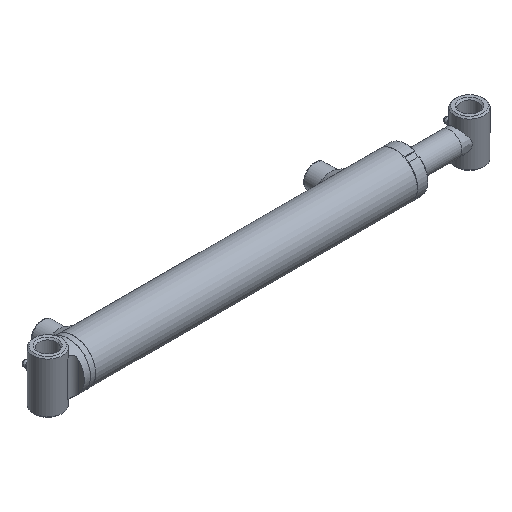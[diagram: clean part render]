
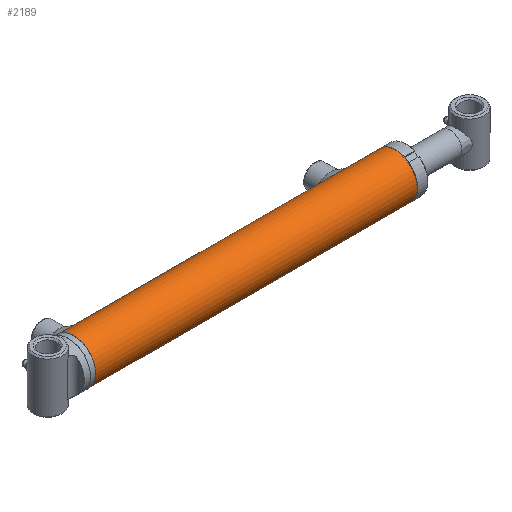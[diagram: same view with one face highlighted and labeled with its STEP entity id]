
A CAD part, isometric view. The second image highlights one B-rep face of the part: STEP entity #2189.
In plain terms, the highlighted cylindrical face has radius 23.812 mm (diameter 47.625 mm), a full revolution.
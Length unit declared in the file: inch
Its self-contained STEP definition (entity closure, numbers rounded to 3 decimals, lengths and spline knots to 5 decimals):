
#387=FACE_BOUND('',#697,.T.);
#388=FACE_BOUND('',#698,.T.);
#389=FACE_BOUND('',#699,.T.);
#509=FACE_OUTER_BOUND('',#696,.T.);
#696=EDGE_LOOP('',(#1677));
#697=EDGE_LOOP('',(#1678));
#698=EDGE_LOOP('',(#1679));
#699=EDGE_LOOP('',(#1680));
#933=CIRCLE('',#2369,0.9375);
#937=CIRCLE('',#2377,0.9375);
#1070=B_SPLINE_CURVE_WITH_KNOTS('',3,(#4752,#4753,#4754,#4755,#4756,#4757,
#4758,#4759,#4760,#4761,#4762,#4763,#4764,#4765,#4766,#4767,#4768,#4769,
#4770,#4771,#4772,#4773,#4774,#4775,#4776,#4777,#4778,#4779,#4780,#4781,
#4782,#4783,#4784,#4785),.UNSPECIFIED.,.T.,.F.,(4,2,2,2,2,2,2,2,2,2,2,2,
2,2,2,2,4),(0.,0.18896,0.37791,0.56686,0.7558,
0.94474,1.13369,1.32264,1.5116,1.70055,
1.88951,2.07845,2.2674,2.45634,2.64528,
2.83424,3.0232),.UNSPECIFIED.);
#1072=B_SPLINE_CURVE_WITH_KNOTS('',3,(#4950,#4951,#4952,#4953,#4954,#4955,
#4956,#4957,#4958,#4959,#4960,#4961,#4962,#4963,#4964,#4965,#4966,#4967,
#4968,#4969,#4970,#4971,#4972,#4973,#4974,#4975,#4976,#4977,#4978,#4979,
#4980,#4981,#4982,#4983),.UNSPECIFIED.,.T.,.F.,(4,2,2,2,2,2,2,2,2,2,2,2,
2,2,2,2,4),(0.,0.18896,0.37791,0.56686,0.7558,
0.94474,1.13369,1.32264,1.5116,1.70055,
1.88951,2.07845,2.2674,2.45634,2.64528,
2.83424,3.0232),.UNSPECIFIED.);
#1126=VERTEX_POINT('',#4751);
#1128=VERTEX_POINT('',#4949);
#1132=VERTEX_POINT('',#4993);
#1136=VERTEX_POINT('',#5005);
#1345=EDGE_CURVE('',#1126,#1126,#1070,.T.);
#1348=EDGE_CURVE('',#1128,#1128,#1072,.T.);
#1352=EDGE_CURVE('',#1132,#1132,#933,.T.);
#1356=EDGE_CURVE('',#1136,#1136,#937,.T.);
#1677=ORIENTED_EDGE('',*,*,#1356,.T.);
#1678=ORIENTED_EDGE('',*,*,#1345,.T.);
#1679=ORIENTED_EDGE('',*,*,#1348,.T.);
#1680=ORIENTED_EDGE('',*,*,#1352,.F.);
#2120=CYLINDRICAL_SURFACE('',#2379,0.9375);
#2189=ADVANCED_FACE('',(#509,#387,#388,#389),#2120,.T.);
#2369=AXIS2_PLACEMENT_3D('',#4994,#2714,#2715);
#2377=AXIS2_PLACEMENT_3D('',#5006,#2730,#2731);
#2379=AXIS2_PLACEMENT_3D('',#5008,#2734,#2735);
#2714=DIRECTION('center_axis',(1.,0.,0.));
#2715=DIRECTION('ref_axis',(0.,-1.,0.));
#2730=DIRECTION('center_axis',(1.,0.,0.));
#2731=DIRECTION('ref_axis',(0.,-1.,0.));
#2734=DIRECTION('center_axis',(1.,0.,0.));
#2735=DIRECTION('ref_axis',(0.,-1.,0.));
#4751=CARTESIAN_POINT('',(5.22195,0.9166,-0.19685));
#4752=CARTESIAN_POINT('Ctrl Pts',(5.22195,0.9166,-0.19685));
#4753=CARTESIAN_POINT('Ctrl Pts',(5.24675,0.9166,-0.19685));
#4754=CARTESIAN_POINT('Ctrl Pts',(5.27314,0.91771,-0.19188));
#4755=CARTESIAN_POINT('Ctrl Pts',(5.32162,0.92169,-0.17177));
#4756=CARTESIAN_POINT('Ctrl Pts',(5.34371,0.92449,-0.15663));
#4757=CARTESIAN_POINT('Ctrl Pts',(5.37858,0.92973,-0.12176));
#4758=CARTESIAN_POINT('Ctrl Pts',(5.39372,0.9325,-0.09967));
#4759=CARTESIAN_POINT('Ctrl Pts',(5.41383,0.93642,-0.05119));
#4760=CARTESIAN_POINT('Ctrl Pts',(5.4188,0.9375,-0.0248));
#4761=CARTESIAN_POINT('Ctrl Pts',(5.4188,0.9375,0.0248));
#4762=CARTESIAN_POINT('Ctrl Pts',(5.41383,0.93642,0.05119));
#4763=CARTESIAN_POINT('Ctrl Pts',(5.39372,0.9325,0.09967));
#4764=CARTESIAN_POINT('Ctrl Pts',(5.37858,0.92973,0.12176));
#4765=CARTESIAN_POINT('Ctrl Pts',(5.34371,0.92449,0.15663));
#4766=CARTESIAN_POINT('Ctrl Pts',(5.32162,0.92169,0.17177));
#4767=CARTESIAN_POINT('Ctrl Pts',(5.27314,0.91771,0.19188));
#4768=CARTESIAN_POINT('Ctrl Pts',(5.24675,0.9166,0.19685));
#4769=CARTESIAN_POINT('Ctrl Pts',(5.19715,0.9166,0.19685));
#4770=CARTESIAN_POINT('Ctrl Pts',(5.17075,0.91771,0.19188));
#4771=CARTESIAN_POINT('Ctrl Pts',(5.12228,0.92169,0.17177));
#4772=CARTESIAN_POINT('Ctrl Pts',(5.10019,0.92449,0.15663));
#4773=CARTESIAN_POINT('Ctrl Pts',(5.06532,0.92973,0.12176));
#4774=CARTESIAN_POINT('Ctrl Pts',(5.05018,0.9325,0.09967));
#4775=CARTESIAN_POINT('Ctrl Pts',(5.03007,0.93642,0.05119));
#4776=CARTESIAN_POINT('Ctrl Pts',(5.0251,0.9375,0.0248));
#4777=CARTESIAN_POINT('Ctrl Pts',(5.0251,0.9375,-0.0248));
#4778=CARTESIAN_POINT('Ctrl Pts',(5.03007,0.93642,-0.05119));
#4779=CARTESIAN_POINT('Ctrl Pts',(5.05018,0.9325,-0.09967));
#4780=CARTESIAN_POINT('Ctrl Pts',(5.06532,0.92973,-0.12176));
#4781=CARTESIAN_POINT('Ctrl Pts',(5.10019,0.92449,-0.15663));
#4782=CARTESIAN_POINT('Ctrl Pts',(5.12228,0.92169,-0.17177));
#4783=CARTESIAN_POINT('Ctrl Pts',(5.17075,0.91771,-0.19188));
#4784=CARTESIAN_POINT('Ctrl Pts',(5.19715,0.9166,-0.19685));
#4785=CARTESIAN_POINT('Ctrl Pts',(5.22195,0.9166,-0.19685));
#4949=CARTESIAN_POINT('',(-6.40305,0.9166,-0.19685));
#4950=CARTESIAN_POINT('Ctrl Pts',(-6.40305,0.9166,-0.19685));
#4951=CARTESIAN_POINT('Ctrl Pts',(-6.37825,0.9166,-0.19685));
#4952=CARTESIAN_POINT('Ctrl Pts',(-6.35186,0.91771,-0.19188));
#4953=CARTESIAN_POINT('Ctrl Pts',(-6.30338,0.92169,-0.17177));
#4954=CARTESIAN_POINT('Ctrl Pts',(-6.28129,0.92449,-0.15663));
#4955=CARTESIAN_POINT('Ctrl Pts',(-6.24642,0.92973,-0.12176));
#4956=CARTESIAN_POINT('Ctrl Pts',(-6.23128,0.9325,-0.09967));
#4957=CARTESIAN_POINT('Ctrl Pts',(-6.21117,0.93642,-0.05119));
#4958=CARTESIAN_POINT('Ctrl Pts',(-6.2062,0.9375,-0.0248));
#4959=CARTESIAN_POINT('Ctrl Pts',(-6.2062,0.9375,0.0248));
#4960=CARTESIAN_POINT('Ctrl Pts',(-6.21117,0.93642,0.05119));
#4961=CARTESIAN_POINT('Ctrl Pts',(-6.23128,0.9325,0.09967));
#4962=CARTESIAN_POINT('Ctrl Pts',(-6.24642,0.92973,0.12176));
#4963=CARTESIAN_POINT('Ctrl Pts',(-6.28129,0.92449,0.15663));
#4964=CARTESIAN_POINT('Ctrl Pts',(-6.30338,0.92169,0.17177));
#4965=CARTESIAN_POINT('Ctrl Pts',(-6.35186,0.91771,0.19188));
#4966=CARTESIAN_POINT('Ctrl Pts',(-6.37825,0.9166,0.19685));
#4967=CARTESIAN_POINT('Ctrl Pts',(-6.42785,0.9166,0.19685));
#4968=CARTESIAN_POINT('Ctrl Pts',(-6.45425,0.91771,0.19188));
#4969=CARTESIAN_POINT('Ctrl Pts',(-6.50272,0.92169,0.17177));
#4970=CARTESIAN_POINT('Ctrl Pts',(-6.52481,0.92449,0.15663));
#4971=CARTESIAN_POINT('Ctrl Pts',(-6.55968,0.92973,0.12176));
#4972=CARTESIAN_POINT('Ctrl Pts',(-6.57482,0.9325,0.09967));
#4973=CARTESIAN_POINT('Ctrl Pts',(-6.59493,0.93642,0.05119));
#4974=CARTESIAN_POINT('Ctrl Pts',(-6.5999,0.9375,0.0248));
#4975=CARTESIAN_POINT('Ctrl Pts',(-6.5999,0.9375,-0.0248));
#4976=CARTESIAN_POINT('Ctrl Pts',(-6.59493,0.93642,-0.05119));
#4977=CARTESIAN_POINT('Ctrl Pts',(-6.57482,0.9325,-0.09967));
#4978=CARTESIAN_POINT('Ctrl Pts',(-6.55968,0.92973,-0.12176));
#4979=CARTESIAN_POINT('Ctrl Pts',(-6.52481,0.92449,-0.15663));
#4980=CARTESIAN_POINT('Ctrl Pts',(-6.50272,0.92169,-0.17177));
#4981=CARTESIAN_POINT('Ctrl Pts',(-6.45425,0.91771,-0.19188));
#4982=CARTESIAN_POINT('Ctrl Pts',(-6.42785,0.9166,-0.19685));
#4983=CARTESIAN_POINT('Ctrl Pts',(-6.40305,0.9166,-0.19685));
#4993=CARTESIAN_POINT('',(6.95423,0.9375,0.));
#4994=CARTESIAN_POINT('Origin',(6.95423,0.,0.));
#5005=CARTESIAN_POINT('',(-6.78445,0.9375,0.));
#5006=CARTESIAN_POINT('Origin',(-6.78445,0.,0.));
#5008=CARTESIAN_POINT('Origin',(0.,0.,0.));
